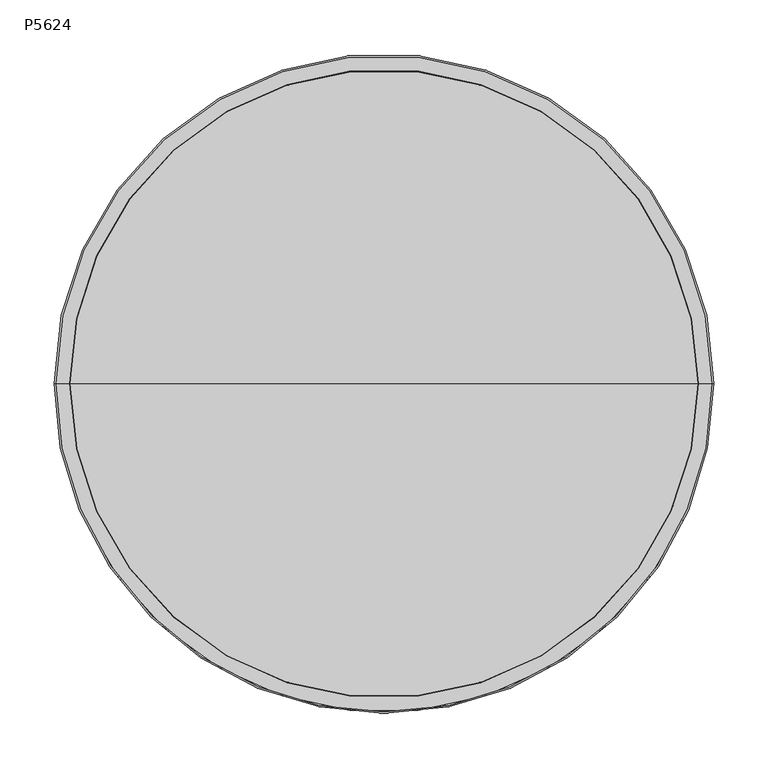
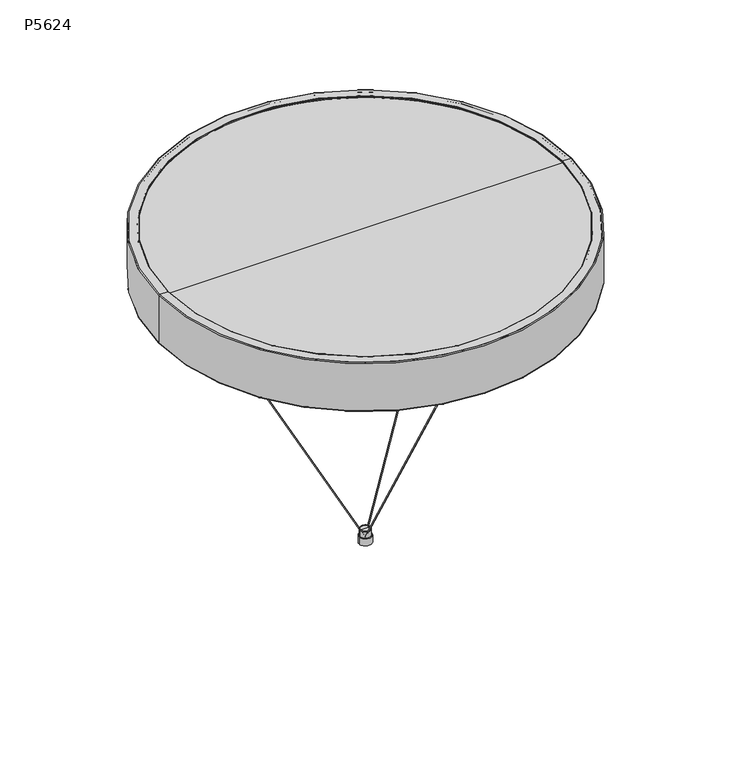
"""IFC4 building model written with IfcOpenShell, lengths in millimetres: light fixture geometry, Impact_Arch_Ltg-waf.r.3 : P5624."""

from ifc_helpers import new_model, si_unit, point, frame, origin, place, context, project, spatial, polyline, circle_curve, ellipse_curve, trimmed, outline, extrude, source, transform, mapped, element, save
from ifc_brep_helpers import plane_surface, cylinder_surface, revolved_surface, advanced_brep


def p5624_6c2476ff(model_context):
    return source(origin(), model_context, "Body", "SolidModel", [
        extrude(outline(polyline([(-197.3648367, 112.2441565), (-202.72628, 115.3133259), (-202.0545949, 116.4866732), (-196.6931515, 113.4175038), (-197.3648367, 112.2441565)])), frame((0.0, 0.0, 409.9115871), z_axis=(0.0, 0.0, 1.0), x_axis=(1.0, 0.0, 0.0)), (0.0, 0.0, 1.0), 10.7885392),
        advanced_brep(
        [(-194.6054884, 111.4023148, 417.2110984), (-204.5912427, 117.1186806, 417.2110984), (-204.5912427, 117.1186806, 428.629196), (-194.6054884, 111.4023148, 428.629196), (-195.0423425, 111.6523929, 416.7077293), (-204.1543886, 116.8686026, 416.7077293), (-199.5983655, 114.2604977, 416.7077293), (-199.5983655, 114.2604977, 428.629196)],
        [
            (0, 1, circle_curve(frame((-199.5983655, 114.2604977, 417.2110984), z_axis=(0.0, 0.0, 1.0), x_axis=(-0.8678602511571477, 0.49680839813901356, 0.0)), 5.7530889)),
            (1, 2),
            (2, 3, circle_curve(frame((-199.5983655, 114.2604977, 428.629196), z_axis=(0.0, 0.0, -1.0), x_axis=(-0.8678602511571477, 0.49680839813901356, 0.0)), 5.7530889)),
            (3, 0),
            (1, 0, circle_curve(frame((-199.5983655, 114.2604977, 417.2110984), z_axis=(0.0, 0.0, 1.0), x_axis=(-0.8678602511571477, 0.49680839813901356, 0.0)), 5.7530889)),
            (3, 2, circle_curve(frame((-199.5983655, 114.2604977, 428.629196), z_axis=(0.0, 0.0, -1.0), x_axis=(-0.8678602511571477, 0.49680839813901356, 0.0)), 5.7530889)),
            (4, 5, circle_curve(frame((-199.5983655, 114.2604977, 416.7077293), z_axis=(0.0, 0.0, 1.0), x_axis=(-0.8678602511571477, 0.49680839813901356, 0.0)), 5.2497197)),
            (5, 1, circle_curve(frame((-204.1543886, 116.8686026, 417.2110984), z_axis=(0.49680839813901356, 0.8678602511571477, 0.0), x_axis=(0.8678602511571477, -0.49680839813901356, 0.0)), 0.5033692)),
            (0, 4, circle_curve(frame((-195.0423425, 111.6523929, 417.2110984), z_axis=(0.49680839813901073, 0.8678602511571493, 0.0), x_axis=(-0.8678602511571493, 0.49680839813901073, 0.0)), 0.5033692)),
            (5, 4, circle_curve(frame((-199.5983655, 114.2604977, 416.7077293), z_axis=(0.0, 0.0, 1.0), x_axis=(-0.8678602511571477, 0.49680839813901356, 0.0)), 5.2497197)),
            (6, 5),
            (4, 6),
            (2, 7),
            (7, 3),
        ],
        [
            cylinder_surface(frame((-199.5983655, 114.2604977, 430.4859885), z_axis=(0.0, 0.0, -1.0), x_axis=(-0.8678602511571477, 0.49680839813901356, 0.0)), 5.7530889),
            revolved_surface(trimmed(ellipse_curve(frame((-204.1543886, 116.8686026, 417.2110984), z_axis=(-0.49680839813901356, -0.8678602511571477, 0.0), x_axis=(0.8678602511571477, -0.49680839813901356, 0.0)), 0.5033692, 0.5033692), [point((-204.5912427, 117.1186806, 417.2110984))], [point((-204.1543886, 116.8686026, 416.7077293))], True, "CARTESIAN"), (-199.5983655, 114.2604977, 430.4859885), (0.0, 0.0, -1.0)),
            plane_surface(frame((-199.5983655, 114.2604977, 416.7077293), z_axis=(0.0, 0.0, -1.0), x_axis=(-0.8678602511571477, 0.49680839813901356, 0.0))),
            plane_surface(frame((-199.5983655, 114.2604977, 428.629196), z_axis=(0.0, 0.0, 1.0), x_axis=(-0.8678602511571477, 0.49680839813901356, 0.0))),
        ],
        [
            (0, [[1, 2, 3, 4]]),
            (0, [[5, -4, 6, -2]]),
            (1, [[7, 8, -1, 9]]),
            (1, [[10, -9, -5, -8]]),
            (2, [[11, -7, 12]]),
            (2, [[-12, -10, -11]]),
            (3, [[-3, 13, 14]]),
            (3, [[-6, -14, -13]]),
        ],
    ),
        advanced_brep(
        [(-0.6754282, 0.3866502, 14.5569925), (0.5177194, -0.2963696, 15.3507425), (0.0, 0.0, 14.7964922), (-184.3510656, 105.5321493, 381.1316061), (-183.157918, 104.8491295, 381.9253561), (-183.7544918, 105.1906394, 381.5284811)],
        [
            (0, 1, circle_curve(frame((-0.0788544, 0.0451403, 14.9538675), z_axis=(0.4339301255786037, -0.24840419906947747, -0.866025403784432), x_axis=(0.7515890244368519, -0.43024869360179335, 0.5000000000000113)), 0.79375)),
            (1, 2),
            (2, 0),
            (1, 0, circle_curve(frame((-0.0788544, 0.0451403, 14.9538675), z_axis=(0.4339301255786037, -0.24840419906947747, -0.866025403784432), x_axis=(0.7515890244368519, -0.43024869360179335, 0.5000000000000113)), 0.79375)),
            (3, 4, circle_curve(frame((-183.7544918, 105.1906394, 381.5284811), z_axis=(0.4339301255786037, -0.24840419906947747, -0.866025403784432), x_axis=(0.7515890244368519, -0.43024869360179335, 0.5000000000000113)), 0.79375)),
            (4, 1),
            (0, 3),
            (4, 3, circle_curve(frame((-183.7544918, 105.1906394, 381.5284811), z_axis=(0.4339301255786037, -0.24840419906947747, -0.866025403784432), x_axis=(0.7515890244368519, -0.43024869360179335, 0.5000000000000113)), 0.79375)),
            (5, 4),
            (3, 5),
        ],
        [
            revolved_surface(polyline([(0.0, 0.0, 14.7964922), (0.5177194, -0.2963696, 15.3507425)]), (-222.9697355, 127.6394869, 459.7931491), (-0.4339301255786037, 0.24840419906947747, 0.866025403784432)),
            cylinder_surface(frame((-222.9697355, 127.6394869, 459.7931491), z_axis=(-0.4339301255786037, 0.24840419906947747, 0.866025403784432), x_axis=(0.7515890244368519, -0.43024869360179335, 0.5000000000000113)), 0.79375),
            plane_surface(frame((-183.7544918, 105.1906394, 381.5284811), z_axis=(-0.43393012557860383, 0.24840419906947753, 0.8660254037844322), x_axis=(0.7515890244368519, -0.43024869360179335, 0.5000000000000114))),
        ],
        [
            (0, [[1, 2, 3]]),
            (0, [[4, -3, -2]]),
            (1, [[5, 6, -1, 7]]),
            (1, [[8, -7, -4, -6]]),
            (2, [[9, -5, 10]]),
            (2, [[-10, -8, -9]]),
        ],
    ),
        advanced_brep(
        [(-185.0967829, 105.9590367, 380.6355123), (-182.4122008, 104.4222421, 382.4214498), (-183.7544918, 105.1906394, 381.5284811), (-188.5411032, 107.930745, 387.509589), (-185.8565212, 106.3939505, 389.2955265), (-187.1988122, 107.1623477, 388.4025577)],
        [
            (0, 1, circle_curve(frame((-183.7544918, 105.1906394, 381.5284811), z_axis=(0.433930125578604, -0.24840419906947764, -0.8660254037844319), x_axis=(0.7515890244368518, -0.4302486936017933, 0.5000000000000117)), 1.7859375)),
            (1, 2),
            (2, 0),
            (1, 0, circle_curve(frame((-183.7544918, 105.1906394, 381.5284811), z_axis=(0.433930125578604, -0.24840419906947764, -0.8660254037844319), x_axis=(0.7515890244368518, -0.4302486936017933, 0.5000000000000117)), 1.7859375)),
            (3, 4, circle_curve(frame((-187.1988122, 107.1623477, 388.4025577), z_axis=(0.433930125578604, -0.24840419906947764, -0.8660254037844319), x_axis=(0.7515890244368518, -0.4302486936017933, 0.5000000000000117)), 1.7859375)),
            (4, 1),
            (0, 3),
            (4, 3, circle_curve(frame((-187.1988122, 107.1623477, 388.4025577), z_axis=(0.433930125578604, -0.24840419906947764, -0.8660254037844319), x_axis=(0.7515890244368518, -0.4302486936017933, 0.5000000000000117)), 1.7859375)),
            (5, 4),
            (3, 5),
        ],
        [
            plane_surface(frame((-183.7544918, 105.1906394, 381.5284811), z_axis=(0.433930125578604, -0.24840419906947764, -0.866025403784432), x_axis=(0.7515890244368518, -0.4302486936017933, 0.5000000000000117))),
            cylinder_surface(frame((-212.8691274, 121.8573728, 439.6346427), z_axis=(-0.433930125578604, 0.24840419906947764, 0.8660254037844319), x_axis=(0.7515890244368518, -0.4302486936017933, 0.5000000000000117)), 1.7859375),
            plane_surface(frame((-187.1988122, 107.1623477, 388.4025577), z_axis=(-0.433930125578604, 0.24840419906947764, 0.866025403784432), x_axis=(0.7515890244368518, -0.4302486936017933, 0.5000000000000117))),
        ],
        [
            (0, [[1, 2, 3]]),
            (0, [[4, -3, -2]]),
            (1, [[5, 6, -1, 7]]),
            (1, [[8, -7, -4, -6]]),
            (2, [[9, -5, 10]]),
            (2, [[-10, -8, -9]]),
        ],
    ),
        advanced_brep(
        [(-191.0765418, 109.3821621, 385.8228702), (-183.3210826, 104.9425334, 390.9822452), (-187.1988122, 107.1623477, 388.4025577), (-203.4760952, 116.4803121, 410.5695461), (-195.7206359, 112.0406834, 415.7289211), (-199.5983655, 114.2604977, 413.1492336)],
        [
            (0, 1, circle_curve(frame((-187.1988122, 107.1623477, 388.4025577), z_axis=(0.43393012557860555, -0.2484041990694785, -0.8660254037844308), x_axis=(0.7515890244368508, -0.4302486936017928, 0.5000000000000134)), 5.159375)),
            (1, 2),
            (2, 0),
            (1, 0, circle_curve(frame((-187.1988122, 107.1623477, 388.4025577), z_axis=(0.43393012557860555, -0.2484041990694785, -0.8660254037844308), x_axis=(0.7515890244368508, -0.4302486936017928, 0.5000000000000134)), 5.159375)),
            (3, 4, circle_curve(frame((-199.5983655, 114.2604977, 413.1492336), z_axis=(0.43393012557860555, -0.2484041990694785, -0.8660254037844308), x_axis=(0.7515890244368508, -0.4302486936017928, 0.5000000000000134)), 5.159375)),
            (4, 1),
            (0, 3),
            (4, 3, circle_curve(frame((-199.5983655, 114.2604977, 413.1492336), z_axis=(0.43393012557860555, -0.2484041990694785, -0.8660254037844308), x_axis=(0.7515890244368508, -0.4302486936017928, 0.5000000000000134)), 5.159375)),
            (5, 4),
            (3, 5),
        ],
        [
            plane_surface(frame((-187.1988122, 107.1623477, 388.4025577), z_axis=(0.43393012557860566, -0.24840419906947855, -0.866025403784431), x_axis=(0.7515890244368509, -0.43024869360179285, 0.5000000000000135))),
            cylinder_surface(frame((-179.7644353, 102.9065233, 373.5652397), z_axis=(-0.43393012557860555, 0.2484041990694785, 0.8660254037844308), x_axis=(0.7515890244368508, -0.4302486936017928, 0.5000000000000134)), 5.159375),
            plane_surface(frame((-199.5983655, 114.2604977, 413.1492336), z_axis=(-0.43393012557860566, 0.24840419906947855, 0.866025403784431), x_axis=(0.7515890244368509, -0.43024869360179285, 0.5000000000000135))),
        ],
        [
            (0, [[1, 2, 3]]),
            (0, [[4, -3, -2]]),
            (1, [[5, 6, -1, 7]]),
            (1, [[8, -7, -4, -6]]),
            (2, [[9, -5, 10]]),
            (2, [[-10, -8, -9]]),
        ],
    ),
        extrude(outline(polyline([(195.4647502, 115.5212571), (200.7919704, 118.6494516), (201.4765731, 117.483594), (196.1493529, 114.3553995), (195.4647502, 115.5212571)])), frame((0.0, 0.0, 409.9115871), z_axis=(0.0, 0.0, 1.0), x_axis=(1.0, 0.0, 0.0)), (0.0, 0.0, 1.0), 10.7885392),
        advanced_brep(
        [(193.3632819, 113.5447624, 417.2110984), (203.2852952, 119.3710632, 417.2110984), (203.2852952, 119.3710632, 428.629196), (193.3632819, 113.5447624, 428.629196), (193.7973475, 113.7996499, 416.7077293), (202.8512296, 119.1161758, 416.7077293), (198.3242885, 116.4579128, 416.7077293), (198.3242885, 116.4579128, 428.629196)],
        [
            (0, 1, circle_curve(frame((198.3242885, 116.4579128, 417.2110984), z_axis=(0.0, 0.0, 1.0), x_axis=(0.862320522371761, 0.5063628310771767, 0.0)), 5.7530889)),
            (1, 2),
            (2, 3, circle_curve(frame((198.3242885, 116.4579128, 428.629196), z_axis=(0.0, 0.0, -1.0), x_axis=(0.862320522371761, 0.5063628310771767, 0.0)), 5.7530889)),
            (3, 0),
            (1, 0, circle_curve(frame((198.3242885, 116.4579128, 417.2110984), z_axis=(0.0, 0.0, 1.0), x_axis=(0.862320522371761, 0.5063628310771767, 0.0)), 5.7530889)),
            (3, 2, circle_curve(frame((198.3242885, 116.4579128, 428.629196), z_axis=(0.0, 0.0, -1.0), x_axis=(0.862320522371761, 0.5063628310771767, 0.0)), 5.7530889)),
            (4, 5, circle_curve(frame((198.3242885, 116.4579128, 416.7077293), z_axis=(0.0, 0.0, 1.0), x_axis=(0.862320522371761, 0.5063628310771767, 0.0)), 5.2497197)),
            (5, 1, circle_curve(frame((202.8512296, 119.1161758, 417.2110984), z_axis=(0.5063628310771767, -0.862320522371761, 0.0), x_axis=(-0.862320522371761, -0.5063628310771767, 0.0)), 0.5033692)),
            (0, 4, circle_curve(frame((193.7973475, 113.7996499, 417.2110984), z_axis=(0.5063628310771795, -0.8623205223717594, 0.0), x_axis=(0.8623205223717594, 0.5063628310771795, 0.0)), 0.5033692)),
            (5, 4, circle_curve(frame((198.3242885, 116.4579128, 416.7077293), z_axis=(0.0, 0.0, 1.0), x_axis=(0.862320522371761, 0.5063628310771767, 0.0)), 5.2497197)),
            (6, 5),
            (4, 6),
            (2, 7),
            (7, 3),
        ],
        [
            cylinder_surface(frame((198.3242885, 116.4579128, 430.4859885), z_axis=(0.0, 0.0, -1.0), x_axis=(0.862320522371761, 0.5063628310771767, 0.0)), 5.7530889),
            revolved_surface(trimmed(ellipse_curve(frame((202.8512296, 119.1161758, 417.2110984), z_axis=(-0.5063628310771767, 0.862320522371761, 0.0), x_axis=(-0.862320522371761, -0.5063628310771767, 0.0)), 0.5033692, 0.5033692), [point((203.2852952, 119.3710632, 417.2110984))], [point((202.8512296, 119.1161758, 416.7077293))], True, "CARTESIAN"), (198.3242885, 116.4579128, 430.4859885), (0.0, 0.0, -1.0)),
            plane_surface(frame((198.3242885, 116.4579128, 416.7077293), z_axis=(0.0, 0.0, -1.0000000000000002), x_axis=(0.862320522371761, 0.5063628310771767, 0.0))),
            plane_surface(frame((198.3242885, 116.4579128, 428.629196), z_axis=(0.0, 0.0, 1.0000000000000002), x_axis=(0.862320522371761, 0.5063628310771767, 0.0))),
        ],
        [
            (0, [[1, 2, 3, 4]]),
            (0, [[5, -4, 6, -2]]),
            (1, [[7, 8, -1, 9]]),
            (1, [[10, -9, -5, -8]]),
            (2, [[11, -7, 12]]),
            (2, [[-12, -10, -11]]),
            (3, [[-3, 13, 14]]),
            (3, [[-6, -14, -13]]),
        ],
    ),
        advanced_brep(
        [(0.6711168, 0.3940862, 14.5569925), (-0.5144147, -0.3020692, 15.3507425), (0.0, 0.0, 14.7964922), (183.1743152, 107.5617041, 381.1316061), (181.9887837, 106.8655487, 381.9253561), (182.5815495, 107.2136264, 381.5284811)],
        [
            (0, 1, circle_curve(frame((0.078351, 0.0460085, 14.9538675), z_axis=(-0.4311602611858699, -0.2531814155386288, -0.866025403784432), x_axis=(-0.7467914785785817, -0.4385230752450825, 0.5000000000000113)), 0.79375)),
            (1, 2),
            (2, 0),
            (1, 0, circle_curve(frame((0.078351, 0.0460085, 14.9538675), z_axis=(-0.4311602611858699, -0.2531814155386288, -0.866025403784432), x_axis=(-0.7467914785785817, -0.4385230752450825, 0.5000000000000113)), 0.79375)),
            (3, 4, circle_curve(frame((182.5815495, 107.2136264, 381.5284811), z_axis=(-0.4311602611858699, -0.2531814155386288, -0.866025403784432), x_axis=(-0.7467914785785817, -0.4385230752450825, 0.5000000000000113)), 0.79375)),
            (4, 1),
            (0, 3),
            (4, 3, circle_curve(frame((182.5815495, 107.2136264, 381.5284811), z_axis=(-0.4311602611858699, -0.2531814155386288, -0.866025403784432), x_axis=(-0.7467914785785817, -0.4385230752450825, 0.5000000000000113)), 0.79375)),
            (5, 4),
            (3, 5),
        ],
        [
            revolved_surface(polyline([(0.0, 0.0, 14.7964922), (-0.5144147, -0.3020692, 15.3507425)]), (221.5464743, 130.0942016, 459.7931491), (0.4311602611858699, 0.2531814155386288, 0.866025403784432)),
            cylinder_surface(frame((221.5464743, 130.0942016, 459.7931491), z_axis=(0.4311602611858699, 0.2531814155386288, 0.866025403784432), x_axis=(-0.7467914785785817, -0.4385230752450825, 0.5000000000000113)), 0.79375),
            plane_surface(frame((182.5815495, 107.2136264, 381.5284811), z_axis=(0.43116026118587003, 0.25318141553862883, 0.8660254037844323), x_axis=(-0.7467914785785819, -0.43852307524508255, 0.5000000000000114))),
        ],
        [
            (0, [[1, 2, 3]]),
            (0, [[4, -3, -2]]),
            (1, [[5, 6, -1, 7]]),
            (1, [[8, -7, -4, -6]]),
            (2, [[9, -5, 10]]),
            (2, [[-10, -8, -9]]),
        ],
    ),
        advanced_brep(
        [(183.9152724, 107.9968012, 380.6355123), (181.2478266, 106.4304516, 382.4214498), (182.5815495, 107.2136264, 381.5284811), (187.337607, 110.0064287, 387.509589), (184.6701611, 108.4400791, 389.2955265), (186.0038841, 109.2232539, 388.4025577)],
        [
            (0, 1, circle_curve(frame((182.5815495, 107.2136264, 381.5284811), z_axis=(-0.4311602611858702, -0.25318141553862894, -0.8660254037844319), x_axis=(-0.7467914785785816, -0.43852307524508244, 0.5000000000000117)), 1.7859375)),
            (1, 2),
            (2, 0),
            (1, 0, circle_curve(frame((182.5815495, 107.2136264, 381.5284811), z_axis=(-0.4311602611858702, -0.25318141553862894, -0.8660254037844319), x_axis=(-0.7467914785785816, -0.43852307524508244, 0.5000000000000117)), 1.7859375)),
            (3, 4, circle_curve(frame((186.0038841, 109.2232539, 388.4025577), z_axis=(-0.4311602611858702, -0.25318141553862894, -0.8660254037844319), x_axis=(-0.7467914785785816, -0.43852307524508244, 0.5000000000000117)), 1.7859375)),
            (4, 1),
            (0, 3),
            (4, 3, circle_curve(frame((186.0038841, 109.2232539, 388.4025577), z_axis=(-0.4311602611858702, -0.25318141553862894, -0.8660254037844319), x_axis=(-0.7467914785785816, -0.43852307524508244, 0.5000000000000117)), 1.7859375)),
            (5, 4),
            (3, 5),
        ],
        [
            plane_surface(frame((182.5815495, 107.2136264, 381.5284811), z_axis=(-0.4311602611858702, -0.25318141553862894, -0.866025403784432), x_axis=(-0.7467914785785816, -0.43852307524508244, 0.5000000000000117))),
            cylinder_surface(frame((211.5103404, 124.2008882, 439.6346427), z_axis=(0.4311602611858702, 0.25318141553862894, 0.8660254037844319), x_axis=(-0.7467914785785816, -0.43852307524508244, 0.5000000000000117)), 1.7859375),
            plane_surface(frame((186.0038841, 109.2232539, 388.4025577), z_axis=(0.4311602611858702, 0.25318141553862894, 0.866025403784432), x_axis=(-0.7467914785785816, -0.43852307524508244, 0.5000000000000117))),
        ],
        [
            (0, [[1, 2, 3]]),
            (0, [[4, -3, -2]]),
            (1, [[5, 6, -1, 7]]),
            (1, [[8, -7, -4, -6]]),
            (2, [[9, -5, 10]]),
            (2, [[-10, -8, -9]]),
        ],
    ),
        advanced_brep(
        [(189.8568613, 111.4857588, 385.8228702), (182.1509068, 106.9607489, 390.9822452), (186.0038841, 109.2232539, 388.4025577), (202.1772658, 118.7204178, 410.5695461), (194.4713112, 114.1954078, 415.7289211), (198.3242885, 116.4579128, 413.1492336)],
        [
            (0, 1, circle_curve(frame((186.0038841, 109.2232539, 388.4025577), z_axis=(-0.43116026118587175, -0.2531814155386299, -0.8660254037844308), x_axis=(-0.7467914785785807, -0.4385230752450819, 0.5000000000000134)), 5.159375)),
            (1, 2),
            (2, 0),
            (1, 0, circle_curve(frame((186.0038841, 109.2232539, 388.4025577), z_axis=(-0.43116026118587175, -0.2531814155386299, -0.8660254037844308), x_axis=(-0.7467914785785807, -0.4385230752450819, 0.5000000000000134)), 5.159375)),
            (3, 4, circle_curve(frame((198.3242885, 116.4579128, 413.1492336), z_axis=(-0.43116026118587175, -0.2531814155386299, -0.8660254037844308), x_axis=(-0.7467914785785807, -0.4385230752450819, 0.5000000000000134)), 5.159375)),
            (4, 1),
            (0, 3),
            (4, 3, circle_curve(frame((198.3242885, 116.4579128, 413.1492336), z_axis=(-0.43116026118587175, -0.2531814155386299, -0.8660254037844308), x_axis=(-0.7467914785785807, -0.4385230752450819, 0.5000000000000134)), 5.159375)),
            (5, 4),
            (3, 5),
        ],
        [
            plane_surface(frame((186.0038841, 109.2232539, 388.4025577), z_axis=(-0.43116026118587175, -0.2531814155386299, -0.8660254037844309), x_axis=(-0.7467914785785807, -0.4385230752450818, 0.5000000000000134))),
            cylinder_surface(frame((178.6169623, 104.885583, 373.5652397), z_axis=(0.43116026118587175, 0.2531814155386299, 0.8660254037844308), x_axis=(-0.7467914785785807, -0.4385230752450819, 0.5000000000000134)), 5.159375),
            plane_surface(frame((198.3242885, 116.4579128, 413.1492336), z_axis=(0.43116026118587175, 0.2531814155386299, 0.8660254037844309), x_axis=(-0.7467914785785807, -0.4385230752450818, 0.5000000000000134))),
        ],
        [
            (0, [[1, 2, 3]]),
            (0, [[4, -3, -2]]),
            (1, [[5, 6, -1, 7]]),
            (1, [[8, -7, -4, -6]]),
            (2, [[9, -5, 10]]),
            (2, [[-10, -8, -9]]),
        ],
    ),
        extrude(outline(polyline([(0.6402665, -227.0489363), (0.6402665, -233.226709), (-0.7117338, -233.226709), (-0.7117338, -227.0489363), (0.6402665, -227.0489363)])), frame((0.0, 0.0, 409.9115871), z_axis=(0.0, 0.0, 1.0), x_axis=(1.0, 0.0, 0.0)), (0.0, 0.0, 1.0), 10.7885392),
        advanced_brep(
        [(0.0, -224.2359736, 417.2110984), (0.0, -235.7421514, 417.2110984), (0.0, -235.7421514, 428.629196), (0.0, -224.2359736, 428.629196), (0.0, -224.7393428, 416.7077293), (0.0, -235.2387822, 416.7077293), (0.0, -229.9890625, 416.7077293), (0.0, -229.9890625, 428.629196)],
        [
            (0, 1, circle_curve(frame((0.0, -229.9890625, 417.2110984), z_axis=(0.0, 0.0, 1.0), x_axis=(0.0, -1.0, 0.0)), 5.7530889)),
            (1, 2),
            (2, 3, circle_curve(frame((0.0, -229.9890625, 428.629196), z_axis=(0.0, 0.0, -1.0), x_axis=(0.0, -1.0, 0.0)), 5.7530889)),
            (3, 0),
            (1, 0, circle_curve(frame((0.0, -229.9890625, 417.2110984), z_axis=(0.0, 0.0, 1.0), x_axis=(0.0, -1.0, 0.0)), 5.7530889)),
            (3, 2, circle_curve(frame((0.0, -229.9890625, 428.629196), z_axis=(0.0, 0.0, -1.0), x_axis=(0.0, -1.0, 0.0)), 5.7530889)),
            (4, 5, circle_curve(frame((0.0, -229.9890625, 416.7077293), z_axis=(0.0, 0.0, 1.0), x_axis=(0.0, -1.0, 0.0)), 5.2497197)),
            (5, 1, circle_curve(frame((0.0, -235.2387822, 417.2110984), z_axis=(-1.0, 0.0, 0.0), x_axis=(0.0, 1.0, 0.0)), 0.5033692)),
            (0, 4, circle_curve(frame((0.0, -224.7393428, 417.2110984), z_axis=(-1.0, 0.0, 0.0), x_axis=(0.0, -1.0, 0.0)), 0.5033692)),
            (5, 4, circle_curve(frame((0.0, -229.9890625, 416.7077293), z_axis=(0.0, 0.0, 1.0), x_axis=(0.0, -1.0, 0.0)), 5.2497197)),
            (6, 5),
            (4, 6),
            (2, 7),
            (7, 3),
        ],
        [
            cylinder_surface(frame((0.0, -229.9890625, 430.4859885), z_axis=(0.0, 0.0, -1.0), x_axis=(0.0, -1.0, 0.0)), 5.7530889),
            revolved_surface(trimmed(ellipse_curve(frame((0.0, -235.2387822, 417.2110984), z_axis=(1.0, 0.0, 0.0), x_axis=(0.0, 1.0, 0.0)), 0.5033692, 0.5033692), [point((0.0, -235.7421514, 417.2110984))], [point((0.0, -235.2387822, 416.7077293))], True, "CARTESIAN"), (0.0, -229.9890625, 430.4859885), (0.0, 0.0, -1.0)),
            plane_surface(frame((0.0, -229.9890625, 416.7077293), z_axis=(0.0, 0.0, -1.0), x_axis=(0.0, -1.0, 0.0))),
            plane_surface(frame((0.0, -229.9890625, 428.629196), z_axis=(0.0, 0.0, 1.0), x_axis=(0.0, -1.0, 0.0))),
        ],
        [
            (0, [[1, 2, 3, 4]]),
            (0, [[5, -4, 6, -2]]),
            (1, [[7, 8, -1, 9]]),
            (1, [[10, -9, -5, -8]]),
            (2, [[11, -7, 12]]),
            (2, [[-12, -10, -11]]),
            (3, [[-3, 13, 14]]),
            (3, [[-6, -14, -13]]),
        ],
    ),
        advanced_brep(
        [(0.0, -0.7782683, 14.5569925), (0.0, 0.596547, 15.3507425), (0.0, 0.0, 14.7964922), (0.0, -212.4202202, 381.1316061), (0.0, -211.0454048, 381.9253561), (0.0, -211.7328125, 381.5284811)],
        [
            (0, 1, circle_curve(frame((0.0, -0.0908607, 14.9538675), z_axis=(0.0, 0.5000000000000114, -0.8660254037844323), x_axis=(0.0, 0.866025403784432, 0.5000000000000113)), 0.79375)),
            (1, 2),
            (2, 0),
            (1, 0, circle_curve(frame((0.0, -0.0908607, 14.9538675), z_axis=(0.0, 0.5000000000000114, -0.8660254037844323), x_axis=(0.0, 0.866025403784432, 0.5000000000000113)), 0.79375)),
            (3, 4, circle_curve(frame((0.0, -211.7328125, 381.5284811), z_axis=(0.0, 0.5000000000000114, -0.8660254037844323), x_axis=(0.0, 0.866025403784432, 0.5000000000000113)), 0.79375)),
            (4, 1),
            (0, 3),
            (4, 3, circle_curve(frame((0.0, -211.7328125, 381.5284811), z_axis=(0.0, 0.5000000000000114, -0.8660254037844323), x_axis=(0.0, 0.866025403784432, 0.5000000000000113)), 0.79375)),
            (5, 4),
            (3, 5),
        ],
        [
            revolved_surface(polyline([(0.0, 0.0, 14.7964922), (0.0, 0.596547, 15.3507425)]), (0.0, -256.9189397, 459.7931491), (0.0, -0.5000000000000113, 0.866025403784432)),
            cylinder_surface(frame((0.0, -256.9189397, 459.7931491), z_axis=(0.0, -0.5000000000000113, 0.866025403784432), x_axis=(0.0, 0.866025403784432, 0.5000000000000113)), 0.79375),
            plane_surface(frame((0.0, -211.7328125, 381.5284811), z_axis=(0.0, -0.5000000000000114, 0.8660254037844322), x_axis=(0.0, 0.8660254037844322, 0.5000000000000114))),
        ],
        [
            (0, [[1, 2, 3]]),
            (0, [[4, -3, -2]]),
            (1, [[5, 6, -1, 7]]),
            (1, [[8, -7, -4, -6]]),
            (2, [[9, -5, 10]]),
            (2, [[-10, -8, -9]]),
        ],
    ),
        advanced_brep(
        [(0.0, -213.2794797, 380.6355123), (0.0, -210.1861453, 382.4214498), (0.0, -211.7328125, 381.5284811), (0.0, -217.2482297, 387.509589), (0.0, -214.1548953, 389.2955265), (0.0, -215.7015625, 388.4025577)],
        [
            (0, 1, circle_curve(frame((0.0, -211.7328125, 381.5284811), z_axis=(0.0, 0.5000000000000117, -0.8660254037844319), x_axis=(0.0, 0.8660254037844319, 0.5000000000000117)), 1.7859375)),
            (1, 2),
            (2, 0),
            (1, 0, circle_curve(frame((0.0, -211.7328125, 381.5284811), z_axis=(0.0, 0.5000000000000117, -0.8660254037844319), x_axis=(0.0, 0.8660254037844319, 0.5000000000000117)), 1.7859375)),
            (3, 4, circle_curve(frame((0.0, -215.7015625, 388.4025577), z_axis=(0.0, 0.5000000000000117, -0.8660254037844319), x_axis=(0.0, 0.8660254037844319, 0.5000000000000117)), 1.7859375)),
            (4, 1),
            (0, 3),
            (4, 3, circle_curve(frame((0.0, -215.7015625, 388.4025577), z_axis=(0.0, 0.5000000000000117, -0.8660254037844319), x_axis=(0.0, 0.8660254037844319, 0.5000000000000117)), 1.7859375)),
            (5, 4),
            (3, 5),
        ],
        [
            plane_surface(frame((0.0, -211.7328125, 381.5284811), z_axis=(0.0, 0.5000000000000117, -0.8660254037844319), x_axis=(0.0, 0.8660254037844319, 0.5000000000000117))),
            cylinder_surface(frame((0.0, -245.2804205, 439.6346427), z_axis=(0.0, -0.5000000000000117, 0.8660254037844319), x_axis=(0.0, 0.8660254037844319, 0.5000000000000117)), 1.7859375),
            plane_surface(frame((0.0, -215.7015625, 388.4025577), z_axis=(0.0, -0.5000000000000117, 0.8660254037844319), x_axis=(0.0, 0.8660254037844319, 0.5000000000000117))),
        ],
        [
            (0, [[1, 2, 3]]),
            (0, [[4, -3, -2]]),
            (1, [[5, 6, -1, 7]]),
            (1, [[8, -7, -4, -6]]),
            (2, [[9, -5, 10]]),
            (2, [[-10, -8, -9]]),
        ],
    ),
        advanced_brep(
        [(0.0, -220.1697123, 385.8228702), (0.0, -211.2334127, 390.9822452), (0.0, -215.7015625, 388.4025577), (0.0, -234.4572123, 410.5695461), (0.0, -225.5209127, 415.7289211), (0.0, -229.9890625, 413.1492336)],
        [
            (0, 1, circle_curve(frame((0.0, -215.7015625, 388.4025577), z_axis=(0.0, 0.5000000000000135, -0.866025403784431), x_axis=(0.0, 0.8660254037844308, 0.5000000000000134)), 5.159375)),
            (1, 2),
            (2, 0),
            (1, 0, circle_curve(frame((0.0, -215.7015625, 388.4025577), z_axis=(0.0, 0.5000000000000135, -0.866025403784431), x_axis=(0.0, 0.8660254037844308, 0.5000000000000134)), 5.159375)),
            (3, 4, circle_curve(frame((0.0, -229.9890625, 413.1492336), z_axis=(0.0, 0.5000000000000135, -0.866025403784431), x_axis=(0.0, 0.8660254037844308, 0.5000000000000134)), 5.159375)),
            (4, 1),
            (0, 3),
            (4, 3, circle_curve(frame((0.0, -229.9890625, 413.1492336), z_axis=(0.0, 0.5000000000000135, -0.866025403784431), x_axis=(0.0, 0.8660254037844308, 0.5000000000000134)), 5.159375)),
            (5, 4),
            (3, 5),
        ],
        [
            plane_surface(frame((0.0, -215.7015625, 388.4025577), z_axis=(0.0, 0.5000000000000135, -0.8660254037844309), x_axis=(0.0, 0.8660254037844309, 0.5000000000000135))),
            cylinder_surface(frame((0.0, -207.135233, 373.5652397), z_axis=(0.0, -0.5000000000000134, 0.8660254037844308), x_axis=(0.0, 0.8660254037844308, 0.5000000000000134)), 5.159375),
            plane_surface(frame((0.0, -229.9890625, 413.1492336), z_axis=(0.0, -0.5000000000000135, 0.8660254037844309), x_axis=(0.0, 0.8660254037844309, 0.5000000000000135))),
        ],
        [
            (0, [[1, 2, 3]]),
            (0, [[4, -3, -2]]),
            (1, [[5, 6, -1, 7]]),
            (1, [[8, -7, -4, -6]]),
            (2, [[9, -5, 10]]),
            (2, [[-10, -8, -9]]),
        ],
    ),
        advanced_brep(
        [(-302.2242615, 0.0, 428.990125), (302.2242615, 0.0, 428.990125), (302.2242615, 0.0, 426.881925), (-302.2242615, 0.0, 426.881925), (0.0, 0.0, 426.881925), (0.0, 0.0, 428.990125)],
        [
            (0, 1, circle_curve(frame((0.0, 0.0, 428.990125), z_axis=(0.0, 0.0, -1.0), x_axis=(1.0, 0.0, 0.0)), 302.2242615)),
            (1, 2),
            (2, 3, circle_curve(frame((0.0, 0.0, 426.881925), z_axis=(0.0, 0.0, 1.0), x_axis=(1.0, 0.0, 0.0)), 302.2242615)),
            (3, 0),
            (1, 0, circle_curve(frame((0.0, 0.0, 428.990125), z_axis=(0.0, 0.0, -1.0), x_axis=(1.0, 0.0, 0.0)), 302.2242615)),
            (3, 2, circle_curve(frame((0.0, 0.0, 426.881925), z_axis=(0.0, 0.0, 1.0), x_axis=(1.0, 0.0, 0.0)), 302.2242615)),
            (2, 4),
            (4, 3),
            (5, 1),
            (0, 5),
        ],
        [
            cylinder_surface(frame((0.0, 0.0, 430.1069411), z_axis=(0.0, 0.0, 1.0), x_axis=(1.0, 0.0, 0.0)), 302.2242615),
            plane_surface(frame((0.0, 0.0, 426.881925), z_axis=(0.0, 0.0, -1.0), x_axis=(1.0, 0.0, 0.0))),
            plane_surface(frame((0.0, 0.0, 428.990125), z_axis=(0.0, 0.0, 1.0), x_axis=(1.0, 0.0, 0.0))),
        ],
        [
            (0, [[1, 2, 3, 4]]),
            (0, [[5, -4, 6, -2]]),
            (1, [[-3, 7, 8]]),
            (1, [[-6, -8, -7]]),
            (2, [[9, -1, 10]]),
            (2, [[-10, -5, -9]]),
        ],
    ),
        advanced_brep(
        [(-292.296004, 0.0, 496.554125), (292.296004, 0.0, 496.554125), (292.296004, 0.0, 493.556925), (-292.296004, 0.0, 493.556925), (0.0, 0.0, 496.554125), (0.0, 0.0, 493.556925)],
        [
            (0, 1, circle_curve(frame((0.0, 0.0, 496.554125), z_axis=(0.0, 0.0, -1.0), x_axis=(1.0, 0.0, 0.0)), 292.296004)),
            (1, 2),
            (2, 3, circle_curve(frame((0.0, 0.0, 493.556925), z_axis=(0.0, 0.0, 1.0), x_axis=(1.0, 0.0, 0.0)), 292.296004)),
            (3, 0),
            (1, 0, circle_curve(frame((0.0, 0.0, 496.554125), z_axis=(0.0, 0.0, -1.0), x_axis=(1.0, 0.0, 0.0)), 292.296004)),
            (3, 2, circle_curve(frame((0.0, 0.0, 493.556925), z_axis=(0.0, 0.0, 1.0), x_axis=(1.0, 0.0, 0.0)), 292.296004)),
            (4, 1),
            (0, 4),
            (2, 5),
            (5, 3),
        ],
        [
            cylinder_surface(frame((0.0, 0.0, 506.0151712), z_axis=(0.0, 0.0, 1.0), x_axis=(1.0, 0.0, 0.0)), 292.296004),
            plane_surface(frame((0.0, 0.0, 496.554125), z_axis=(0.0, 0.0, 1.0), x_axis=(1.0, 0.0, 0.0))),
            plane_surface(frame((0.0, 0.0, 493.556925), z_axis=(0.0, 0.0, -1.0), x_axis=(1.0, 0.0, 0.0))),
        ],
        [
            (0, [[1, 2, 3, 4]]),
            (0, [[5, -4, 6, -2]]),
            (1, [[7, -1, 8]]),
            (1, [[-8, -5, -7]]),
            (2, [[-3, 9, 10]]),
            (2, [[-6, -10, -9]]),
        ],
    ),
        advanced_brep(
        [(-138.0922196, 0.0, 426.3605001), (138.0922196, 0.0, 426.3605001), (139.7459682, 0.0, 426.881925), (-139.7459682, 0.0, 426.881925), (-94.6848362, 0.0, 395.9663229), (94.6848362, 0.0, 395.9663229), (-93.1662831, 0.0, 395.487525), (93.1662831, 0.0, 395.487525), (0.0, 0.0, 395.487525), (-93.6261841, 0.0, 393.861925), (93.6261841, 0.0, 393.861925), (0.0, 0.0, 393.861925), (-95.2803499, 0.0, 394.3834815), (95.2803499, 0.0, 394.3834815), (-138.9154931, 0.0, 424.9371377), (138.9154931, 0.0, 424.9371377), (-139.9278259, 0.0, 425.256325), (139.9278259, 0.0, 425.256325), (-152.4, 0.0, 425.256325), (152.4, 0.0, 425.256325), (-152.4, 0.0, 426.881925), (152.4, 0.0, 426.881925)],
        [
            (0, 1, circle_curve(frame((0.0, 0.0, 426.3605001), z_axis=(0.0, 0.0, -1.0), x_axis=(1.0, 0.0, 0.0)), 138.0922196)),
            (1, 2, circle_curve(frame((139.7459682, 0.0, 423.9987023), z_axis=(0.0, 1.0, 0.0), x_axis=(1.0, 0.0, 0.0)), 2.8832227)),
            (2, 3, circle_curve(frame((0.0, 0.0, 426.881925), z_axis=(0.0, 0.0, 1.0), x_axis=(1.0, 0.0, 0.0)), 139.7459682)),
            (3, 0, circle_curve(frame((-139.7459682, 0.0, 423.9987023), z_axis=(0.0, 1.0, 0.0), x_axis=(-1.0, 0.0, 0.0)), 2.8832227)),
            (1, 0, circle_curve(frame((0.0, 0.0, 426.3605001), z_axis=(0.0, 0.0, -1.0), x_axis=(1.0, 0.0, 0.0)), 138.0922196)),
            (3, 2, circle_curve(frame((0.0, 0.0, 426.881925), z_axis=(0.0, 0.0, 1.0), x_axis=(1.0, 0.0, 0.0)), 139.7459682)),
            (4, 5, circle_curve(frame((0.0, 0.0, 395.9663229), z_axis=(0.0, 0.0, -1.0), x_axis=(1.0, 0.0, 0.0)), 94.6848362)),
            (5, 1),
            (0, 4),
            (5, 4, circle_curve(frame((0.0, 0.0, 395.9663229), z_axis=(0.0, 0.0, -1.0), x_axis=(1.0, 0.0, 0.0)), 94.6848362)),
            (6, 7, circle_curve(frame((0.0, 0.0, 395.487525), z_axis=(0.0, 0.0, -1.0), x_axis=(1.0, 0.0, 0.0)), 93.1662831)),
            (7, 5, circle_curve(frame((93.1662831, 0.0, 398.1350415), z_axis=(0.0, -1.0, 0.0), x_axis=(1.0, 0.0, 0.0)), 2.6475165)),
            (4, 6, circle_curve(frame((-93.1662831, 0.0, 398.1350415), z_axis=(0.0, -1.0, 0.0), x_axis=(-1.0, 0.0, 0.0)), 2.6475165)),
            (7, 6, circle_curve(frame((0.0, 0.0, 395.487525), z_axis=(0.0, 0.0, -1.0), x_axis=(1.0, 0.0, 0.0)), 93.1662831)),
            (8, 7),
            (6, 8),
            (9, 10, circle_curve(frame((0.0, 0.0, 393.861925), z_axis=(0.0, 0.0, -1.0), x_axis=(1.0, 0.0, 0.0)), 93.6261841)),
            (10, 11),
            (11, 9),
            (10, 9, circle_curve(frame((0.0, 0.0, 393.861925), z_axis=(0.0, 0.0, -1.0), x_axis=(1.0, 0.0, 0.0)), 93.6261841)),
            (12, 13, circle_curve(frame((0.0, 0.0, 394.3834815), z_axis=(0.0, 0.0, -1.0), x_axis=(1.0, 0.0, 0.0)), 95.2803499)),
            (13, 10, circle_curve(frame((93.6261841, 0.0, 396.745875), z_axis=(0.0, 1.0, 0.0), x_axis=(1.0, 0.0, 0.0)), 2.88395)),
            (9, 12, circle_curve(frame((-93.6261841, 0.0, 396.745875), z_axis=(0.0, 1.0, 0.0), x_axis=(-1.0, 0.0, 0.0)), 2.88395)),
            (13, 12, circle_curve(frame((0.0, 0.0, 394.3834815), z_axis=(0.0, 0.0, -1.0), x_axis=(1.0, 0.0, 0.0)), 95.2803499)),
            (14, 15, circle_curve(frame((0.0, 0.0, 424.9371377), z_axis=(0.0, 0.0, -1.0), x_axis=(1.0, 0.0, 0.0)), 138.9154931)),
            (15, 13),
            (12, 14),
            (15, 14, circle_curve(frame((0.0, 0.0, 424.9371377), z_axis=(0.0, 0.0, -1.0), x_axis=(1.0, 0.0, 0.0)), 138.9154931)),
            (16, 17, circle_curve(frame((0.0, 0.0, 425.256325), z_axis=(0.0, 0.0, -1.0), x_axis=(1.0, 0.0, 0.0)), 139.9278259)),
            (17, 15, circle_curve(frame((139.9278259, 0.0, 423.4913767), z_axis=(0.0, -1.0, 0.0), x_axis=(1.0, 0.0, 0.0)), 1.7649483)),
            (14, 16, circle_curve(frame((-139.9278259, 0.0, 423.4913767), z_axis=(0.0, -1.0, 0.0), x_axis=(-1.0, 0.0, 0.0)), 1.7649483)),
            (17, 16, circle_curve(frame((0.0, 0.0, 425.256325), z_axis=(0.0, 0.0, -1.0), x_axis=(1.0, 0.0, 0.0)), 139.9278259)),
            (18, 19, circle_curve(frame((0.0, 0.0, 425.256325), z_axis=(0.0, 0.0, -1.0), x_axis=(1.0, 0.0, 0.0)), 152.4)),
            (19, 17),
            (16, 18),
            (19, 18, circle_curve(frame((0.0, 0.0, 425.256325), z_axis=(0.0, 0.0, -1.0), x_axis=(1.0, 0.0, 0.0)), 152.4)),
            (20, 21, circle_curve(frame((0.0, 0.0, 426.881925), z_axis=(0.0, 0.0, -1.0), x_axis=(1.0, 0.0, 0.0)), 152.4)),
            (21, 19),
            (18, 20),
            (21, 20, circle_curve(frame((0.0, 0.0, 426.881925), z_axis=(0.0, 0.0, -1.0), x_axis=(1.0, 0.0, 0.0)), 152.4)),
            (2, 21),
            (20, 3),
        ],
        [
            revolved_surface(trimmed(ellipse_curve(frame((139.7459682, 0.0, 423.9987023), z_axis=(0.0, -1.0, 0.0), x_axis=(1.0, 0.0, 0.0)), 2.8832227, 2.8832227), [point((139.7459682, 0.0, 426.881925))], [point((138.0922196, 0.0, 426.3605001))], True, "CARTESIAN"), (0.0, 0.0, 364.5535), (0.0, 0.0, 1.0)),
            revolved_surface(polyline([(138.0922196, 0.0, 426.3605001), (94.6848362, 0.0, 395.9663229)]), (0.0, 0.0, 364.5535), (0.0, 0.0, 1.0)),
            revolved_surface(trimmed(ellipse_curve(frame((93.1662831, 0.0, 398.1350415), z_axis=(0.0, 1.0, 0.0), x_axis=(1.0, 0.0, 0.0)), 2.6475165, 2.6475165), [point((94.6848362, 0.0, 395.9663229))], [point((93.1662831, 0.0, 395.487525))], True, "CARTESIAN"), (0.0, 0.0, 364.5535), (0.0, 0.0, 1.0)),
            plane_surface(frame((0.0, 0.0, 395.487525), z_axis=(0.0, 0.0, 1.0), x_axis=(1.0, 0.0, 0.0))),
            plane_surface(frame((0.0, 0.0, 393.861925), z_axis=(0.0, 0.0, -1.0), x_axis=(1.0, 0.0, 0.0))),
            revolved_surface(trimmed(ellipse_curve(frame((93.6261841, 0.0, 396.745875), z_axis=(0.0, -1.0, 0.0), x_axis=(1.0, 0.0, 0.0)), 2.88395, 2.88395), [point((93.6261841, 0.0, 393.861925))], [point((95.2803499, 0.0, 394.3834815))], True, "CARTESIAN"), (0.0, 0.0, 364.5535), (0.0, 0.0, 1.0)),
            revolved_surface(polyline([(95.2803499, 0.0, 394.3834815), (138.9154931, 0.0, 424.9371377)]), (0.0, 0.0, 364.5535), (0.0, 0.0, 1.0)),
            revolved_surface(trimmed(ellipse_curve(frame((139.9278259, 0.0, 423.4913767), z_axis=(0.0, 1.0, 0.0), x_axis=(1.0, 0.0, 0.0)), 1.7649483, 1.7649483), [point((138.9154931, 0.0, 424.9371377))], [point((139.9278259, 0.0, 425.256325))], True, "CARTESIAN"), (0.0, 0.0, 364.5535), (0.0, 0.0, 1.0)),
            plane_surface(frame((0.0, 0.0, 425.256325), z_axis=(0.0, 0.0, -1.0), x_axis=(1.0, 0.0, 0.0))),
            cylinder_surface(frame((0.0, 0.0, 364.5535), z_axis=(0.0, 0.0, 1.0), x_axis=(1.0, 0.0, 0.0)), 152.4),
            plane_surface(frame((0.0, 0.0, 426.881925), z_axis=(0.0, 0.0, 1.0), x_axis=(1.0, 0.0, 0.0))),
        ],
        [
            (0, [[1, 2, 3, 4]]),
            (0, [[5, -4, 6, -2]]),
            (1, [[7, 8, -1, 9]]),
            (1, [[10, -9, -5, -8]]),
            (2, [[11, 12, -7, 13]]),
            (2, [[14, -13, -10, -12]]),
            (3, [[15, -11, 16]]),
            (3, [[-16, -14, -15]]),
            (4, [[17, 18, 19]]),
            (4, [[20, -19, -18]]),
            (5, [[21, 22, -17, 23]]),
            (5, [[24, -23, -20, -22]]),
            (6, [[25, 26, -21, 27]]),
            (6, [[28, -27, -24, -26]]),
            (7, [[29, 30, -25, 31]]),
            (7, [[32, -31, -28, -30]]),
            (8, [[33, 34, -29, 35]]),
            (8, [[36, -35, -32, -34]]),
            (9, [[37, 38, -33, 39]]),
            (9, [[40, -39, -36, -38]]),
            (10, [[-3, 41, -37, 42]]),
            (10, [[-6, -42, -40, -41]]),
        ],
    ),
        advanced_brep(
        [(-301.6192171, 0.0, 496.5552721), (301.6192171, 0.0, 496.5552721), (290.7969575, 0.0, 496.5552721), (-290.7969575, 0.0, 496.5552721), (-302.2242615, 0.0, 495.9502277), (302.2242615, 0.0, 495.9502277), (-302.2242615, 0.0, 422.894125), (302.2242615, 0.0, 422.894125), (-303.4792663, 0.0, 422.894125), (303.4792663, 0.0, 422.894125), (-304.8, 0.0, 424.2148587), (304.8, 0.0, 424.2148587), (-304.8, 0.0, 497.8015671), (304.8, 0.0, 497.8015671), (-303.5074421, 0.0, 499.094125), (303.5074421, 0.0, 499.094125), (-290.7885371, 0.0, 499.094125), (290.7885371, 0.0, 499.094125), (-290.2906432, 0.0, 497.0615864), (290.2906432, 0.0, 497.0615864), (290.2906432, 0.0, 498.5962311), (-290.2906432, 0.0, 498.5962311)],
        [
            (0, 1, circle_curve(frame((0.0, 0.0, 496.5552721), z_axis=(0.0, 0.0, -1.0), x_axis=(1.0, 0.0, 0.0)), 301.6192171)),
            (1, 2),
            (2, 3, circle_curve(frame((0.0, 0.0, 496.5552721), z_axis=(0.0, 0.0, 1.0), x_axis=(1.0, 0.0, 0.0)), 290.7969575)),
            (3, 0),
            (1, 0, circle_curve(frame((0.0, 0.0, 496.5552721), z_axis=(0.0, 0.0, -1.0), x_axis=(1.0, 0.0, 0.0)), 301.6192171)),
            (3, 2, circle_curve(frame((0.0, 0.0, 496.5552721), z_axis=(0.0, 0.0, 1.0), x_axis=(1.0, 0.0, 0.0)), 290.7969575)),
            (4, 5, circle_curve(frame((0.0, 0.0, 495.9502277), z_axis=(0.0, 0.0, -1.0), x_axis=(1.0, 0.0, 0.0)), 302.2242615)),
            (5, 1, circle_curve(frame((301.6192171, 0.0, 495.9502277), z_axis=(0.0, -1.0, 0.0), x_axis=(1.0, 0.0, 0.0)), 0.6050444)),
            (0, 4, circle_curve(frame((-301.6192171, 0.0, 495.9502277), z_axis=(0.0, -1.0, 0.0), x_axis=(-1.0, 0.0, 0.0)), 0.6050444)),
            (5, 4, circle_curve(frame((0.0, 0.0, 495.9502277), z_axis=(0.0, 0.0, -1.0), x_axis=(1.0, 0.0, 0.0)), 302.2242615)),
            (6, 7, circle_curve(frame((0.0, 0.0, 422.894125), z_axis=(0.0, 0.0, -1.0), x_axis=(1.0, 0.0, 0.0)), 302.2242615)),
            (7, 5),
            (4, 6),
            (7, 6, circle_curve(frame((0.0, 0.0, 422.894125), z_axis=(0.0, 0.0, -1.0), x_axis=(1.0, 0.0, 0.0)), 302.2242615)),
            (8, 9, circle_curve(frame((0.0, 0.0, 422.894125), z_axis=(0.0, 0.0, -1.0), x_axis=(1.0, 0.0, 0.0)), 303.4792663)),
            (9, 7),
            (6, 8),
            (9, 8, circle_curve(frame((0.0, 0.0, 422.894125), z_axis=(0.0, 0.0, -1.0), x_axis=(1.0, 0.0, 0.0)), 303.4792663)),
            (10, 11, circle_curve(frame((0.0, 0.0, 424.2148587), z_axis=(0.0, 0.0, -1.0), x_axis=(1.0, 0.0, 0.0)), 304.8)),
            (11, 9, circle_curve(frame((303.4792663, 0.0, 424.2148587), z_axis=(0.0, 1.0, 0.0), x_axis=(1.0, 0.0, 0.0)), 1.3207337)),
            (8, 10, circle_curve(frame((-303.4792663, 0.0, 424.2148587), z_axis=(0.0, 1.0, 0.0), x_axis=(-1.0, 0.0, 0.0)), 1.3207337)),
            (11, 10, circle_curve(frame((0.0, 0.0, 424.2148587), z_axis=(0.0, 0.0, -1.0), x_axis=(1.0, 0.0, 0.0)), 304.8)),
            (12, 13, circle_curve(frame((0.0, 0.0, 497.8015671), z_axis=(0.0, 0.0, -1.0), x_axis=(1.0, 0.0, 0.0)), 304.8)),
            (13, 11),
            (10, 12),
            (13, 12, circle_curve(frame((0.0, 0.0, 497.8015671), z_axis=(0.0, 0.0, -1.0), x_axis=(1.0, 0.0, 0.0)), 304.8)),
            (14, 15, circle_curve(frame((0.0, 0.0, 499.094125), z_axis=(0.0, 0.0, -1.0), x_axis=(1.0, 0.0, 0.0)), 303.5074421)),
            (15, 13, circle_curve(frame((303.5074421, 0.0, 497.8015671), z_axis=(0.0, 1.0, 0.0), x_axis=(1.0, 0.0, 0.0)), 1.2925579)),
            (12, 14, circle_curve(frame((-303.5074421, 0.0, 497.8015671), z_axis=(0.0, 1.0, 0.0), x_axis=(-1.0, 0.0, 0.0)), 1.2925579)),
            (15, 14, circle_curve(frame((0.0, 0.0, 499.094125), z_axis=(0.0, 0.0, -1.0), x_axis=(1.0, 0.0, 0.0)), 303.5074421)),
            (16, 17, circle_curve(frame((0.0, 0.0, 499.094125), z_axis=(0.0, 0.0, -1.0), x_axis=(1.0, 0.0, 0.0)), 290.7885371)),
            (17, 15),
            (14, 16),
            (17, 16, circle_curve(frame((0.0, 0.0, 499.094125), z_axis=(0.0, 0.0, -1.0), x_axis=(1.0, 0.0, 0.0)), 290.7885371)),
            (18, 19, circle_curve(frame((0.0, 0.0, 497.0615864), z_axis=(0.0, 0.0, -1.0), x_axis=(1.0, 0.0, 0.0)), 290.2906432)),
            (19, 20),
            (20, 21, circle_curve(frame((0.0, 0.0, 498.5962311), z_axis=(0.0, 0.0, 1.0), x_axis=(1.0, 0.0, 0.0)), 290.2906432)),
            (21, 18),
            (19, 18, circle_curve(frame((0.0, 0.0, 497.0615864), z_axis=(0.0, 0.0, -1.0), x_axis=(1.0, 0.0, 0.0)), 290.2906432)),
            (21, 20, circle_curve(frame((0.0, 0.0, 498.5962311), z_axis=(0.0, 0.0, 1.0), x_axis=(1.0, 0.0, 0.0)), 290.2906432)),
            (2, 19, circle_curve(frame((290.7969575, 0.0, 497.0615864), z_axis=(0.0, 1.0, 0.0), x_axis=(1.0, 0.0, 0.0)), 0.5063143)),
            (18, 3, circle_curve(frame((-290.7969575, 0.0, 497.0615864), z_axis=(0.0, 1.0, 0.0), x_axis=(-1.0, 0.0, 0.0)), 0.5063143)),
            (20, 17, circle_curve(frame((290.7885371, 0.0, 498.5962311), z_axis=(0.0, 1.0, 0.0), x_axis=(1.0, 0.0, 0.0)), 0.4978939)),
            (16, 21, circle_curve(frame((-290.7885371, 0.0, 498.5962311), z_axis=(0.0, 1.0, 0.0), x_axis=(-1.0, 0.0, 0.0)), 0.4978939)),
        ],
        [
            plane_surface(frame((0.0, 0.0, 496.5552721), z_axis=(0.0, 0.0, -1.0), x_axis=(1.0, 0.0, 0.0))),
            revolved_surface(trimmed(ellipse_curve(frame((301.6192171, 0.0, 495.9502277), z_axis=(0.0, 1.0, 0.0), x_axis=(1.0, 0.0, 0.0)), 0.6050444, 0.6050444), [point((301.6192171, 0.0, 496.5552721))], [point((302.2242615, 0.0, 495.9502277))], True, "CARTESIAN"), (0.0, 0.0, 549.894125), (0.0, 0.0, 1.0)),
            revolved_surface(polyline([(302.2242615, 0.0, 495.9502277), (302.2242615, 0.0, 422.894125)]), (0.0, 0.0, 549.894125), (0.0, 0.0, 1.0)),
            plane_surface(frame((0.0, 0.0, 422.894125), z_axis=(0.0, 0.0, -1.0), x_axis=(1.0, 0.0, 0.0))),
            revolved_surface(trimmed(ellipse_curve(frame((303.4792663, 0.0, 424.2148587), z_axis=(0.0, -1.0, 0.0), x_axis=(1.0, 0.0, 0.0)), 1.3207337, 1.3207337), [point((303.4792663, 0.0, 422.894125))], [point((304.8, 0.0, 424.2148587))], True, "CARTESIAN"), (0.0, 0.0, 549.894125), (0.0, 0.0, 1.0)),
            cylinder_surface(frame((0.0, 0.0, 549.894125), z_axis=(0.0, 0.0, 1.0), x_axis=(1.0, 0.0, 0.0)), 304.8),
            revolved_surface(trimmed(ellipse_curve(frame((303.5074421, 0.0, 497.8015671), z_axis=(0.0, -1.0, 0.0), x_axis=(1.0, 0.0, 0.0)), 1.2925579, 1.2925579), [point((304.8, 0.0, 497.8015671))], [point((303.5074421, 0.0, 499.094125))], True, "CARTESIAN"), (0.0, 0.0, 549.894125), (0.0, 0.0, 1.0)),
            plane_surface(frame((0.0, 0.0, 499.094125), z_axis=(0.0, 0.0, 1.0), x_axis=(1.0, 0.0, 0.0))),
            revolved_surface(polyline([(290.2906432, 0.0, 498.5962311), (290.2906432, 0.0, 497.0615864)]), (0.0, 0.0, 549.894125), (0.0, 0.0, 1.0)),
            revolved_surface(trimmed(ellipse_curve(frame((290.7969575, 0.0, 497.0615864), z_axis=(0.0, -1.0, 0.0), x_axis=(1.0, 0.0, 0.0)), 0.5063143, 0.5063143), [point((290.2906432, 0.0, 497.0615864))], [point((290.7969575, 0.0, 496.5552721))], True, "CARTESIAN"), (0.0, 0.0, 549.894125), (0.0, 0.0, 1.0)),
            revolved_surface(trimmed(ellipse_curve(frame((290.7885371, 0.0, 498.5962311), z_axis=(0.0, -1.0, 0.0), x_axis=(1.0, 0.0, 0.0)), 0.4978939, 0.4978939), [point((290.7885371, 0.0, 499.094125))], [point((290.2906432, 0.0, 498.5962311))], True, "CARTESIAN"), (0.0, 0.0, 549.894125), (0.0, 0.0, 1.0)),
        ],
        [
            (0, [[1, 2, 3, 4]]),
            (0, [[5, -4, 6, -2]]),
            (1, [[7, 8, -1, 9]]),
            (1, [[10, -9, -5, -8]]),
            (2, [[11, 12, -7, 13]]),
            (2, [[14, -13, -10, -12]]),
            (3, [[15, 16, -11, 17]]),
            (3, [[18, -17, -14, -16]]),
            (4, [[19, 20, -15, 21]]),
            (4, [[22, -21, -18, -20]]),
            (5, [[23, 24, -19, 25]]),
            (5, [[26, -25, -22, -24]]),
            (6, [[27, 28, -23, 29]]),
            (6, [[30, -29, -26, -28]]),
            (7, [[31, 32, -27, 33]]),
            (7, [[34, -33, -30, -32]]),
            (8, [[35, 36, 37, 38]]),
            (8, [[39, -38, 40, -36]]),
            (9, [[-3, 41, -35, 42]]),
            (9, [[-6, -42, -39, -41]]),
            (10, [[-37, 43, -31, 44]]),
            (10, [[-40, -44, -34, -43]]),
        ],
    ),
        advanced_brep(
        [(-9.2456, 0.0, 7.366), (9.2456, 0.0, 7.366), (0.0, 0.0, 7.366), (-9.2456, 0.0, 17.849117), (9.2456, 0.0, 17.849117), (-8.730517, 0.0, 18.3642), (8.730517, 0.0, 18.3642), (-7.9030748, 0.0, 18.3642), (7.9030748, 0.0, 18.3642), (-7.9030748, 0.0, 27.4924806), (7.9030748, 0.0, 27.4924806), (-6.9575823, 0.0, 28.4379732), (6.9575823, 0.0, 28.4379732), (0.0, 0.0, 28.4379732)],
        [
            (0, 1, circle_curve(frame((0.0, 0.0, 7.366), z_axis=(0.0, 0.0, -1.0), x_axis=(1.0, 0.0, 0.0)), 9.2456)),
            (1, 2),
            (2, 0),
            (1, 0, circle_curve(frame((0.0, 0.0, 7.366), z_axis=(0.0, 0.0, -1.0), x_axis=(1.0, 0.0, 0.0)), 9.2456)),
            (3, 4, circle_curve(frame((0.0, 0.0, 17.849117), z_axis=(0.0, 0.0, -1.0), x_axis=(1.0, 0.0, 0.0)), 9.2456)),
            (4, 1),
            (0, 3),
            (4, 3, circle_curve(frame((0.0, 0.0, 17.849117), z_axis=(0.0, 0.0, -1.0), x_axis=(1.0, 0.0, 0.0)), 9.2456)),
            (5, 6, circle_curve(frame((0.0, 0.0, 18.3642), z_axis=(0.0, 0.0, -1.0), x_axis=(1.0, 0.0, 0.0)), 8.730517)),
            (6, 4, circle_curve(frame((8.730517, 0.0, 17.849117), z_axis=(0.0, 1.0, 0.0), x_axis=(1.0, 0.0, 0.0)), 0.515083)),
            (3, 5, circle_curve(frame((-8.730517, 0.0, 17.849117), z_axis=(0.0, 1.0, 0.0), x_axis=(-1.0, 0.0, 0.0)), 0.515083)),
            (6, 5, circle_curve(frame((0.0, 0.0, 18.3642), z_axis=(0.0, 0.0, -1.0), x_axis=(1.0, 0.0, 0.0)), 8.730517)),
            (7, 8, circle_curve(frame((0.0, 0.0, 18.3642), z_axis=(0.0, 0.0, -1.0), x_axis=(1.0, 0.0, 0.0)), 7.9030748)),
            (8, 6),
            (5, 7),
            (8, 7, circle_curve(frame((0.0, 0.0, 18.3642), z_axis=(0.0, 0.0, -1.0), x_axis=(1.0, 0.0, 0.0)), 7.9030748)),
            (9, 10, circle_curve(frame((0.0, 0.0, 27.4924806), z_axis=(0.0, 0.0, -1.0), x_axis=(1.0, 0.0, 0.0)), 7.9030748)),
            (10, 8),
            (7, 9),
            (10, 9, circle_curve(frame((0.0, 0.0, 27.4924806), z_axis=(0.0, 0.0, -1.0), x_axis=(1.0, 0.0, 0.0)), 7.9030748)),
            (11, 12, circle_curve(frame((0.0, 0.0, 28.4379732), z_axis=(0.0, 0.0, -1.0), x_axis=(1.0, 0.0, 0.0)), 6.9575823)),
            (12, 10, circle_curve(frame((6.9575823, 0.0, 27.4924806), z_axis=(0.0, 1.0, 0.0), x_axis=(1.0, 0.0, 0.0)), 0.9454926)),
            (9, 11, circle_curve(frame((-6.9575823, 0.0, 27.4924806), z_axis=(0.0, 1.0, 0.0), x_axis=(-1.0, 0.0, 0.0)), 0.9454926)),
            (12, 11, circle_curve(frame((0.0, 0.0, 28.4379732), z_axis=(0.0, 0.0, -1.0), x_axis=(1.0, 0.0, 0.0)), 6.9575823)),
            (13, 12),
            (11, 13),
        ],
        [
            plane_surface(frame((0.0, 0.0, 7.366), z_axis=(0.0, 0.0, -1.0), x_axis=(1.0, 0.0, 0.0))),
            cylinder_surface(frame((0.0, 0.0, -19.05), z_axis=(0.0, 0.0, 1.0), x_axis=(1.0, 0.0, 0.0)), 9.2456),
            revolved_surface(trimmed(ellipse_curve(frame((8.730517, 0.0, 17.849117), z_axis=(0.0, -1.0, 0.0), x_axis=(1.0, 0.0, 0.0)), 0.515083, 0.515083), [point((9.2456, 0.0, 17.849117))], [point((8.730517, 0.0, 18.3642))], True, "CARTESIAN"), (0.0, 0.0, -19.05), (0.0, 0.0, 1.0)),
            plane_surface(frame((0.0, 0.0, 18.3642), z_axis=(0.0, 0.0, 1.0), x_axis=(1.0, 0.0, 0.0))),
            cylinder_surface(frame((0.0, 0.0, -19.05), z_axis=(0.0, 0.0, 1.0), x_axis=(1.0, 0.0, 0.0)), 7.9030748),
            revolved_surface(trimmed(ellipse_curve(frame((6.9575823, 0.0, 27.4924806), z_axis=(0.0, -1.0, 0.0), x_axis=(1.0, 0.0, 0.0)), 0.9454926, 0.9454926), [point((7.9030748, 0.0, 27.4924806))], [point((6.9575823, 0.0, 28.4379732))], True, "CARTESIAN"), (0.0, 0.0, -19.05), (0.0, 0.0, 1.0)),
            plane_surface(frame((0.0, 0.0, 28.4379732), z_axis=(0.0, 0.0, 1.0), x_axis=(1.0, 0.0, 0.0))),
        ],
        [
            (0, [[1, 2, 3]]),
            (0, [[4, -3, -2]]),
            (1, [[5, 6, -1, 7]]),
            (1, [[8, -7, -4, -6]]),
            (2, [[9, 10, -5, 11]]),
            (2, [[12, -11, -8, -10]]),
            (3, [[13, 14, -9, 15]]),
            (3, [[16, -15, -12, -14]]),
            (4, [[17, 18, -13, 19]]),
            (4, [[20, -19, -16, -18]]),
            (5, [[21, 22, -17, 23]]),
            (5, [[24, -23, -20, -22]]),
            (6, [[25, -21, 26]]),
            (6, [[-26, -24, -25]]),
        ],
    ),
    ])


if __name__ == "__main__":
    model = new_model("IFC4")
    model_context = context("Model", 3, world=origin())
    ifc_project = project(units=[si_unit("LENGTHUNIT", "METRE", prefix="MILLI")], contexts=[model_context])
    site = spatial("IfcSite", under=ifc_project)
    building = spatial("IfcBuilding", under=site)
    placement = place(None, origin())
    p5624_shape = p5624_6c2476ff(model_context)
    element("IfcLightFixture", 1, ObjectType="Impact_Arch_Ltg-waf.r.3 : P5624", at=placement, inside=building, context=model_context, shape_type="MappedRepresentation", body=[
        mapped(p5624_shape, transform((0.0, 0.0, 0.0), x_axis=(1.0, 0.0, 0.0), y_axis=(0.0, 1.0, 0.0), z_axis=(0.0, 0.0, 1.0))),
    ])
    save(model, "model.ifc")
